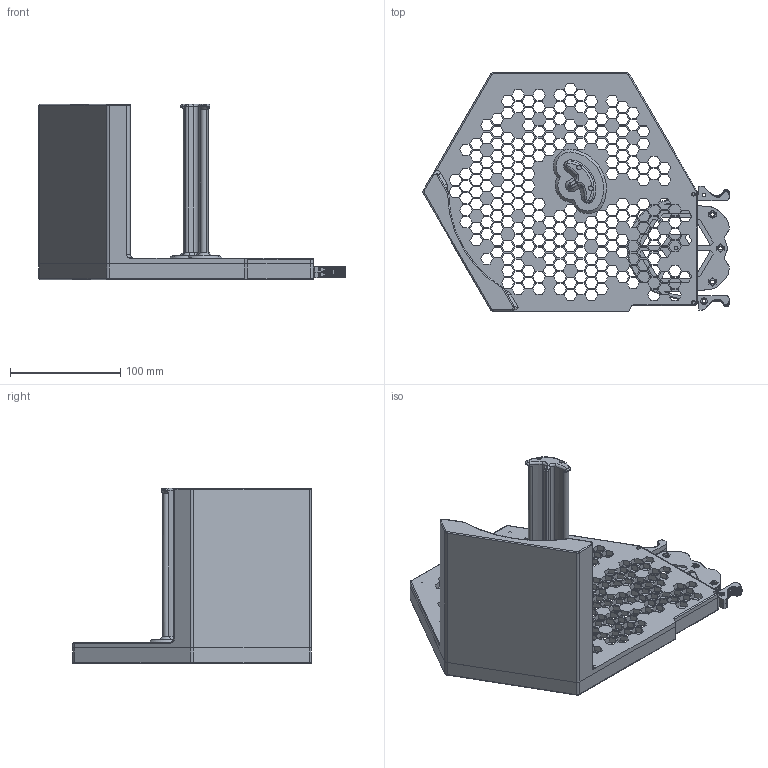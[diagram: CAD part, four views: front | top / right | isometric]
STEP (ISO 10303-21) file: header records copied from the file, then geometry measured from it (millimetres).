
FILE_DESCRIPTION(/* description */ (''),/* implementation_level */ '2;1');
FILE_NAME(/* name */ 'spindle 2kg.step',/* time_stamp */ '2025-10-21T17:52:32+01:00',/* author */ (''),/* organization */ (''),/* preprocessor_version */ 'ST-DEVELOPER v20.1',/* originating_system */ 'Autodesk Translation Framework v14.17.0.0',/* authorisation */ '');
FILE_SCHEMA (('AUTOMOTIVE_DESIGN { 1 0 10303 214 3 1 1 }'));
Products named in the file (5): Hex Spool Holder with buffer; Spool Holder; Buffer; segment-R4(1); wheel-R4(1)
Assembly tree (4 placements, depth 2):
  Hex Spool Holder with buffer
    Spool Holder
    Buffer
    segment-R4(1)
    wheel-R4(1)
Bounding box: 278.21 x 216.51 x 159.5 mm (x, y, z)
Volume: 520039.1 mm3; surface area: 272464.6 mm2
Topology: 5 solids, 5 shells, 14186 faces, 28404 edges, 14254 vertices
Faces by surface type: plane 14034, cylinder 79, torus 27, bspline 22, cone 18, sphere 6
Full cylindrical faces by diameter (mm): 2.9 x7, 3.5 x7, 4.3 x2, 6 x5
Entity records: 344328 total; most frequent: CARTESIAN_POINT 58118, DIRECTION 56919, ORIENTED_EDGE 56802, EDGE_CURVE 28401, LINE 28107, VECTOR 28107, EDGE_LOOP 15201, AXIS2_PLACEMENT_3D 14406
